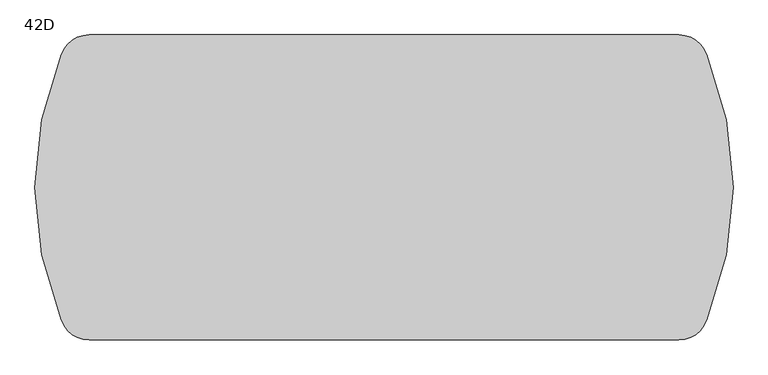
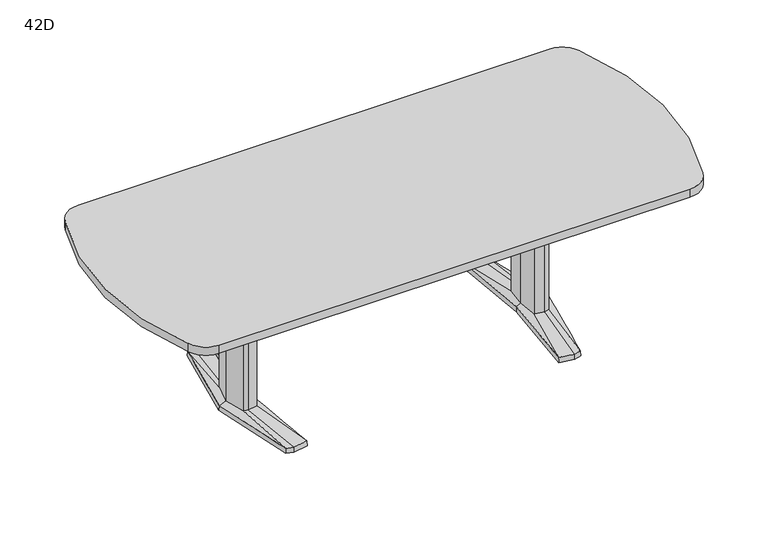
"""IFC4 building model written with IfcOpenShell, lengths in millimetres: furniture geometry, Coalesse_AM_Table_Conference_ETable2_SoftRadiused_96in_AluminiumBase : 42D."""

import ifcopenshell
import ifcopenshell.guid

model = None  # the IFC model being written
_history = None  # IfcOwnerHistory: only IFC2X3 demands one
_inside = {}  # id of a spatial element -> (the spatial element, [elements in it])
_under = {}  # id of a project, library or spatial element -> (it, [spatial elements below it])
_declared = {}  # id of a project -> (the project, [libraries it declares])
_typed = {}  # id of a type object -> (the type object, [elements of that type])
_made_of = {}  # id of a material, layer set ... -> (it, [elements and type objects made of it])


def new_model(schema):
    """Start an empty IFC model of exactly this schema.

    Asked for "IFC4X3", IfcOpenShell would pick the latest addendum, in which some entities
    have other attributes; the version numbers below select the first issue.
    IFC2X3 requires an IfcOwnerHistory on every rooted entity: one is made here for all.
    """
    global model, _history
    if schema == "IFC4X3":
        model = ifcopenshell.file(schema_version=(4, 3, 0, 0))
    else:
        model = ifcopenshell.file(schema=schema)
    _inside.clear()
    _under.clear()
    _declared.clear()
    _typed.clear()
    _made_of.clear()
    _history = None
    if model.schema == "IFC2X3":
        org = make("IfcOrganization", Name="unknown")
        user = make(
            "IfcPersonAndOrganization",
            ThePerson=make("IfcPerson", FamilyName="unknown"),
            TheOrganization=org,
        )
        app = make(
            "IfcApplication",
            ApplicationDeveloper=org,
            Version="unknown",
            ApplicationFullName="unknown",
            ApplicationIdentifier="unknown",
        )
        _history = make(
            "IfcOwnerHistory",
            OwningUser=user,
            OwningApplication=app,
            ChangeAction="ADDED",
            CreationDate=0,
        )
    return model


def make(cls, **values):
    """One entity of the class cls with the attributes given. An attribute that is None is left unset."""
    return model.create_entity(
        cls, **{name: value for name, value in values.items() if value is not None}
    )


def rooted(cls, **values):
    """An entity with a GlobalId (a new one), such as an element, a storey or a relation."""
    return make(cls, GlobalId=ifcopenshell.guid.new(), OwnerHistory=_history, **values)


def si_unit(unit_type, name, prefix=None):
    """IfcSIUnit, for example si_unit("LENGTHUNIT", "METRE", prefix="MILLI")."""
    return make("IfcSIUnit", UnitType=unit_type, Prefix=prefix, Name=name)


def assignment(units):
    """IfcUnitAssignment: the units of a project."""
    return None if units is None else make("IfcUnitAssignment", Units=units)


def point(xyz):
    """IfcCartesianPoint."""
    return None if xyz is None else make("IfcCartesianPoint", Coordinates=xyz)


def direction(xyz):
    """IfcDirection."""
    return None if xyz is None else make("IfcDirection", DirectionRatios=xyz)


def frame(location, z_axis=None, x_axis=None):
    """IfcAxis2Placement3D, a coordinate frame: its origin and axes. An axis left out is left unset."""
    return make(
        "IfcAxis2Placement3D",
        Location=point(location),
        Axis=direction(z_axis),
        RefDirection=direction(x_axis),
    )


def frame_2d(location, x_axis=None):
    """IfcAxis2Placement2D, a coordinate frame in the plane: its origin and x axis."""
    return make(
        "IfcAxis2Placement2D", Location=point(location), RefDirection=direction(x_axis)
    )


def origin():
    """The frame at (0, 0, 0) with its axes left unset."""
    return frame((0.0, 0.0, 0.0))


def place(relative_to, where):
    """IfcLocalPlacement: puts the frame where relative to a parent placement (None: the world)."""
    return make(
        "IfcLocalPlacement", PlacementRelTo=relative_to, RelativePlacement=where
    )


def context(
    kind, dimensions, precision=None, world=None, true_north=None, identifier=None
):
    """IfcGeometricRepresentationContext, for example the 3D "Model" context."""
    return make(
        "IfcGeometricRepresentationContext",
        ContextIdentifier=identifier,
        ContextType=kind,
        CoordinateSpaceDimension=dimensions,
        Precision=precision,
        WorldCoordinateSystem=world,
        TrueNorth=true_north,
    )


def project(units=None, contexts=None):
    """IfcProject with its units and contexts."""
    return rooted(
        "IfcProject",
        Name="project",
        RepresentationContexts=contexts,
        UnitsInContext=assignment(units),
    )


def spatial(cls, under=None, at=None, **own):
    """A site, building, storey or space (cls), placed at a placement, below another one or the project."""
    s = rooted(cls, ObjectPlacement=at, **own)
    if under is not None:
        _under.setdefault(under.id(), (under, []))[1].append(s)
    return s


def polyline(points):
    """IfcPolyline through the points."""
    return make("IfcPolyline", Points=[point(p) for p in points])


def circle_curve(where, radius):
    """IfcCircle in the frame where."""
    return make("IfcCircle", Position=where, Radius=radius)


def trimmed(basis, trim1, trim2, sense, master):
    """IfcTrimmedCurve: the piece of a basis curve between two trims."""
    return make(
        "IfcTrimmedCurve",
        BasisCurve=basis,
        Trim1=trim1,
        Trim2=trim2,
        SenseAgreement=sense,
        MasterRepresentation=master,
    )


def segment(curve, same_sense, transition):
    """IfcCompositeCurveSegment."""
    return make(
        "IfcCompositeCurveSegment",
        Transition=transition,
        SameSense=same_sense,
        ParentCurve=curve,
    )


def composite_curve(segments, self_intersect=None):
    """IfcCompositeCurve: segments joined end to end."""
    return make("IfcCompositeCurve", Segments=segments, SelfIntersect=self_intersect)


def outline(outer, holes=None, kind="AREA"):
    """IfcArbitraryClosedProfileDef: a profile drawn as a closed curve; with holes, ...WithVoids."""
    if holes is None:
        return make("IfcArbitraryClosedProfileDef", ProfileType=kind, OuterCurve=outer)
    return make(
        "IfcArbitraryProfileDefWithVoids",
        ProfileType=kind,
        OuterCurve=outer,
        InnerCurves=holes,
    )


def extrude(swept, where, along, depth):
    """IfcExtrudedAreaSolid: the profile swept, set in the frame where, extruded along a direction by depth."""
    return make(
        "IfcExtrudedAreaSolid",
        SweptArea=swept,
        Position=where,
        ExtrudedDirection=direction(along),
        Depth=depth,
    )


def shape(context_of_items, identifier, shape_type, items):
    """IfcShapeRepresentation: the items that make up one representation, for example the "Body"."""
    return make(
        "IfcShapeRepresentation",
        ContextOfItems=context_of_items,
        RepresentationIdentifier=identifier,
        RepresentationType=shape_type,
        Items=items,
    )


def source(mapping_origin, context_of_items, identifier, shape_type, items):
    """IfcRepresentationMap: a shape defined once, which mapped items show again and again."""
    return make(
        "IfcRepresentationMap",
        MappingOrigin=mapping_origin,
        MappedRepresentation=shape(context_of_items, identifier, shape_type, items),
    )


def transform(
    local_origin,
    x_axis=None,
    y_axis=None,
    z_axis=None,
    scale=None,
    scale2=None,
    scale3=None,
    uniform=True,
):
    """IfcCartesianTransformationOperator3D, or its non-uniform kind. x_axis, y_axis, z_axis: its Axis1, 2, 3."""
    if uniform:
        return make(
            "IfcCartesianTransformationOperator3D",
            Axis1=direction(x_axis),
            Axis2=direction(y_axis),
            LocalOrigin=point(local_origin),
            Scale=scale,
            Axis3=direction(z_axis),
        )
    return make(
        "IfcCartesianTransformationOperator3DnonUniform",
        Axis1=direction(x_axis),
        Axis2=direction(y_axis),
        LocalOrigin=point(local_origin),
        Scale=scale,
        Axis3=direction(z_axis),
        Scale2=scale2,
        Scale3=scale3,
    )


def mapped(mapping_source, mapping_target):
    """IfcMappedItem: shows the shape of a source again, moved by a transform."""
    return make(
        "IfcMappedItem", MappingSource=mapping_source, MappingTarget=mapping_target
    )


def made_of(thing, what):
    """Note that an element or type object is made of a material, layer set ...; save() writes the relation."""
    if what is not None:
        _made_of.setdefault(what.id(), (what, []))[1].append(thing)
    return thing


def element(
    cls,
    number,
    at=None,
    inside=None,
    cuts=None,
    type_object=None,
    material=None,
    context=None,
    identifier="Body",
    shape_type=None,
    held_by="IfcProductDefinitionShape",
    body=None,
    shapes=None,
    **own,
):
    """One element of the class cls, such as IfcWall. Its Tag is "e" and its number.

    at: its placement. inside: the storey or other place that contains it. cuts: it is an
    opening in that element (IfcRelVoidsElement). A single representation is given by context,
    identifier, shape_type and body (its items); several are given by shapes. held_by: the class
    of the entity that holds the representations. save() writes the other relations.
    """
    e = rooted(cls, Tag="e%d" % number, ObjectPlacement=at, **own)
    if body is not None:
        shapes = [shape(context, identifier, shape_type, body)]
    if shapes is not None:
        e.Representation = make(held_by, Representations=shapes)
    if inside is not None:
        _inside.setdefault(inside.id(), (inside, []))[1].append(e)
    if cuts is not None:
        rooted(
            "IfcRelVoidsElement", RelatingBuildingElement=cuts, RelatedOpeningElement=e
        )
    if type_object is not None:
        _typed.setdefault(type_object.id(), (type_object, []))[1].append(e)
    return made_of(e, material)


def aggregate(whole, parts):
    """IfcRelAggregates: a whole, such as a stair, and the parts it consists of."""
    return rooted("IfcRelAggregates", RelatingObject=whole, RelatedObjects=parts)


def save(model, path):
    """Write the relations noted so far, then the file.

    IfcRelAggregates (storeys below a building ...), IfcRelContainedInSpatialStructure (elements
    in a storey), IfcRelDefinesByType, IfcRelAssociatesMaterial and IfcRelDeclares: one each for
    every whole, place, type object, material and project.
    """
    for whole, parts in _under.values():
        aggregate(whole, parts)
    for where, things in _inside.values():
        rooted(
            "IfcRelContainedInSpatialStructure",
            RelatedElements=things,
            RelatingStructure=where,
        )
    for kind, things in _typed.values():
        rooted("IfcRelDefinesByType", RelatedObjects=things, RelatingType=kind)
    for what, things in _made_of.values():
        rooted("IfcRelAssociatesMaterial", RelatedObjects=things, RelatingMaterial=what)
    for by, libraries in _declared.values():
        rooted("IfcRelDeclares", RelatingContext=by, RelatedDefinitions=libraries)
    model.write(path)


def plane_surface(at):
    """IfcPlane: the flat surface through the origin of the frame at, square to its z axis."""
    return make("IfcPlane", Position=at)


def spline_surface(u_degree, v_degree, points, u_multiplicities, v_multiplicities, u_knots, v_knots, weights=None):
    """IfcBSplineSurfaceWithKnots; with weights, IfcRationalBSplineSurfaceWithKnots. points: one row for each step in u."""
    own = dict(
        UDegree=u_degree,
        VDegree=v_degree,
        ControlPointsList=[[point(p) for p in row] for row in points],
        SurfaceForm="UNSPECIFIED",
        UClosed=False,
        VClosed=False,
        SelfIntersect=False,
        UMultiplicities=u_multiplicities,
        VMultiplicities=v_multiplicities,
        UKnots=u_knots,
        VKnots=v_knots,
        KnotSpec="UNSPECIFIED",
    )
    if weights is None:
        return make("IfcBSplineSurfaceWithKnots", **own)
    return make("IfcRationalBSplineSurfaceWithKnots", WeightsData=weights, **own)


def advanced_brep(points, edges, surfaces, faces):
    """IfcAdvancedBrep: a solid bounded by faces that lie on surfaces and meet in shared edges.

    An edge is (start, end): straight between two places in points (the first is 0);
    or (start, end, curve); or (start, end, curve, False) where it runs against its curve.
    A face is (place in surfaces, loops), or (place, loops, False) where it looks against
    its surface's normal. A loop lists edges by number (the first is 1), with a minus sign
    where the edge is run from its end to its start. The first loop is the outer one.
    """
    corners = [point(p) for p in points]
    vertices = [make("IfcVertexPoint", VertexGeometry=c) for c in corners]
    made = []
    for start, end, *more in edges:
        made.append(
            make(
                "IfcEdgeCurve",
                EdgeStart=vertices[start],
                EdgeEnd=vertices[end],
                EdgeGeometry=more[0] if more else make("IfcPolyline", Points=[corners[start], corners[end]]),
                SameSense=more[1] if len(more) > 1 else True,
            )
        )
    hull = []
    for where, loops, *sense in faces:
        bounds = []
        for j, loop in enumerate(loops):
            ring = [make("IfcOrientedEdge", EdgeElement=made[abs(k) - 1], Orientation=k > 0) for k in loop]
            bounds.append(
                make(
                    "IfcFaceOuterBound" if j == 0 else "IfcFaceBound",
                    Bound=make("IfcEdgeLoop", EdgeList=ring),
                    Orientation=True,
                )
            )
        hull.append(make("IfcAdvancedFace", Bounds=bounds, FaceSurface=surfaces[where], SameSense=sense[0] if sense else True))
    return make("IfcAdvancedBrep", Outer=make("IfcClosedShell", CfsFaces=hull))


def furniture_42d_a634458f(model_context):
    return source(origin(), model_context, "Body", "SolidModel", [
        advanced_brep(
        [(614.8503471, -379.3768856, 25.4), (644.5756636, -371.5332654, 25.4), (668.2327243, -89.293702, 36.5125), (648.9795254, -94.605478, 36.5125), (606.0521001, -87.0529327, 36.5125), (551.7612538, -368.5071562, 25.4), (597.9364207, 0.0, 36.5125), (579.8389754, 0.3970149, 25.4), (606.0521001, 87.0529327, 36.5125), (551.7615002, 368.5172593, 25.4), (648.9795254, 94.605478, 36.5125), (614.8502233, 379.3769183, 25.4), (668.2327243, 89.293702, 36.5125), (644.7535458, 371.4863276, 25.4), (692.1595251, 0.0, 36.5125), (721.4851663, 0.0003516, 25.4), (578.2468742, 0.3968871, 3.175), (550.06875, 369.8367279, 3.175), (614.9213004, 381.0, 3.175), (646.1093245, 372.7704151, 3.175), (723.10625, 0.0, 3.175), (645.9309817, -372.8174744, 3.175), (614.9213004, -381.0, 3.175), (550.06875, -369.8264415, 3.175), (649.5979264, 107.6121478, 3.175), (594.3065451, 97.8843184, 3.175), (585.1810887, 0.0, 3.175), (594.3065451, -97.8843184, 3.175), (649.5979264, -107.6121478, 3.175), (678.6183473, -99.6056872, 3.175), (705.3083085, 0.0, 3.175), (678.6183473, 99.6056872, 3.175), (613.4286812, 346.9152841, 3.175), (557.7811371, 337.3364985, 3.175), (560.1889918, 324.8641942, 3.175), (612.8600644, 333.9306305, 3.175), (648.6725609, 324.4807859, 3.175), (647.5544526, 337.9105158, 3.175), (613.4286812, -346.9152841, 3.175), (647.5544526, -337.9105158, 3.175), (648.6725609, -324.4807859, 3.175), (612.8600644, -333.9306305, 3.175), (560.1889918, -324.8641942, 3.175), (557.7811371, -337.3364985, 3.175), (649.5979264, 107.6121478, 0.0), (678.6183473, 99.6056872, 0.0), (705.3083085, 0.0, 0.0), (678.6183473, -99.6056872, 0.0), (649.5979264, -107.6121478, 0.0), (594.3065451, -97.8843184, 0.0), (585.1810887, 0.0, 0.0), (594.3065451, 97.8843184, 0.0), (613.4286812, 346.9152841, 0.0), (647.5544526, 337.9105158, 0.0), (648.6725609, 324.4807859, 0.0), (612.8600644, 333.9306305, 0.0), (560.1889918, 324.8641942, 0.0), (557.7811371, 337.3364985, 0.0), (613.4286812, -346.9152841, 0.0), (557.7811371, -337.3364985, 0.0), (560.1889918, -324.8641942, 0.0), (612.8600644, -333.9306305, 0.0), (648.6725609, -324.4807859, 0.0), (647.5544526, -337.9105158, 0.0), (668.2327243, 89.293702, 698.5), (648.9795254, 94.605478, 698.5), (606.0521001, 87.0529327, 698.5), (597.9364207, 0.0, 698.5), (606.0521001, -87.0529327, 698.5), (648.9795254, -94.605478, 698.5), (668.2327243, -89.293702, 698.5), (692.1595251, 0.0, 698.5)],
        [
            (0, 1),
            (1, 2),
            (2, 3),
            (3, 0),
            (3, 4),
            (4, 5),
            (5, 0),
            (4, 6),
            (6, 7),
            (7, 5),
            (6, 8),
            (8, 9),
            (9, 7),
            (8, 10),
            (10, 11),
            (11, 9),
            (10, 12),
            (12, 13),
            (13, 11),
            (12, 14),
            (14, 15),
            (15, 13),
            (1, 15),
            (14, 2),
            (16, 17),
            (17, 18),
            (18, 19),
            (19, 20),
            (20, 21),
            (21, 22),
            (22, 23),
            (23, 16),
            (24, 25),
            (25, 26),
            (26, 27),
            (27, 28),
            (28, 29),
            (29, 30),
            (30, 31),
            (31, 24),
            (32, 33),
            (33, 34),
            (34, 35),
            (35, 36),
            (36, 37),
            (37, 32),
            (38, 39),
            (39, 40),
            (40, 41),
            (41, 42),
            (42, 43),
            (43, 38),
            (16, 7),
            (9, 17),
            (11, 18),
            (13, 19),
            (15, 20),
            (1, 21),
            (0, 22),
            (5, 23),
            (44, 45),
            (45, 46),
            (46, 47),
            (47, 48),
            (48, 49),
            (49, 50),
            (50, 51),
            (51, 44),
            (52, 53),
            (53, 54),
            (54, 55),
            (55, 56),
            (56, 57),
            (57, 52),
            (58, 59),
            (59, 60),
            (60, 61),
            (61, 62),
            (62, 63),
            (63, 58),
            (44, 24),
            (31, 45),
            (30, 46),
            (29, 47),
            (28, 48),
            (27, 49),
            (26, 50),
            (25, 51),
            (52, 32),
            (37, 53),
            (36, 54),
            (35, 55),
            (34, 56),
            (33, 57),
            (58, 38),
            (43, 59),
            (42, 60),
            (41, 61),
            (40, 62),
            (39, 63),
            (64, 65),
            (65, 66),
            (66, 67),
            (67, 68),
            (68, 69),
            (69, 70),
            (70, 71),
            (71, 64),
            (71, 14),
            (12, 64),
            (70, 2),
            (69, 3),
            (68, 4),
            (67, 6),
            (66, 8),
            (65, 10),
        ],
        [
            spline_surface(1, 1, [[(644.5756636, -371.5332654, 25.4), (614.8503471, -379.3768856, 25.4)], [(668.2327243, -89.293702, 36.5125), (648.9795254, -94.605478, 36.5125)]], [2, 2], [2, 2], [0.0, 1.0], [0.0, 1.0]),
            spline_surface(1, 1, [[(614.8503471, -379.3768856, 25.4), (551.7612538, -368.5071562, 25.4)], [(648.9795254, -94.605478, 36.5125), (606.0521001, -87.0529327, 36.5125)]], [2, 2], [2, 2], [0.0, 1.0], [0.0, 1.0]),
            spline_surface(1, 1, [[(551.7612538, -368.5071562, 25.4), (579.8389754, 0.3970149, 25.4)], [(606.0521001, -87.0529327, 36.5125), (597.9364207, 0.0, 36.5125)]], [2, 2], [2, 2], [0.0, 1.0], [0.0, 1.0]),
            spline_surface(1, 1, [[(579.8389754, 0.3970149, 25.4), (551.7615002, 368.5172593, 25.4)], [(597.9364207, 0.0, 36.5125), (606.0521001, 87.0529327, 36.5125)]], [2, 2], [2, 2], [0.0, 1.0], [0.0, 1.0]),
            spline_surface(1, 1, [[(551.7615002, 368.5172593, 25.4), (614.8502233, 379.3769183, 25.4)], [(606.0521001, 87.0529327, 36.5125), (648.9795254, 94.605478, 36.5125)]], [2, 2], [2, 2], [0.0, 1.0], [0.0, 1.0]),
            spline_surface(1, 1, [[(614.8502233, 379.3769183, 25.4), (644.7535458, 371.4863276, 25.4)], [(648.9795254, 94.605478, 36.5125), (668.2327243, 89.293702, 36.5125)]], [2, 2], [2, 2], [0.0, 1.0], [0.0, 1.0]),
            spline_surface(1, 1, [[(644.7535458, 371.4863276, 25.4), (721.4851663, 0.0003516, 25.4)], [(668.2327243, 89.293702, 36.5125), (692.1595251, 0.0, 36.5125)]], [2, 2], [2, 2], [0.0, 1.0], [0.0, 1.0]),
            spline_surface(1, 1, [[(721.4851663, 0.0003516, 25.4), (644.5756636, -371.5332654, 25.4)], [(692.1595251, 0.0, 36.5125), (668.2327243, -89.293702, 36.5125)]], [2, 2], [2, 2], [0.0, 1.0], [0.0, 1.0]),
            plane_surface(frame((615.4216914, 0.0450143, 3.175), z_axis=(0.0, 0.0, -1.0), x_axis=(-0.9669048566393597, -0.2551372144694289, 0.0))),
            plane_surface(frame((564.1578121, 185.1168075, 3.175), z_axis=(-0.9945699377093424, -0.07585840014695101, 0.0712470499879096), x_axis=(-0.07605167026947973, 0.9971038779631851, 0.0))),
            plane_surface(frame((582.4950252, 375.418364, 3.175), z_axis=(-0.1692071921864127, 0.9830019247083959, 0.07124704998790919), x_axis=(0.985506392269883, 0.16963829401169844, 0.0))),
            plane_surface(frame((630.5153124, 376.8852076, 3.175), z_axis=(0.2544888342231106, 0.9644476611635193, 0.07124704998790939), x_axis=(0.9669048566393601, -0.25513721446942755, 0.0))),
            plane_surface(frame((684.6077872, 186.3852076, 3.175), z_axis=(0.9768383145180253, 0.2017690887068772, 0.07124704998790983), x_axis=(0.20228315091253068, -0.9793270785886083, 0.0))),
            plane_surface(frame((684.5186158, -186.4087372, 3.175), z_axis=(0.9767507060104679, -0.20219276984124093, 0.07124704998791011), x_axis=(-0.2027079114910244, -0.9792392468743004, 0.0))),
            plane_surface(frame((630.426141, -376.9087372, 3.175), z_axis=(0.2544888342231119, -0.9644476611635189, 0.0712470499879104), x_axis=(-0.9669048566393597, -0.2551372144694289, 0.0))),
            plane_surface(frame((582.4950252, -375.4132207, 3.175), z_axis=(-0.16935861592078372, -0.982975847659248, 0.07124704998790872), x_axis=(-0.9854802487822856, 0.16979010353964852, 0.0))),
            plane_surface(frame((564.1578121, -184.7147772, 3.175), z_axis=(-0.9945820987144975, 0.07569878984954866, 0.07124704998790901), x_axis=(0.07589165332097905, 0.9971160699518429, 0.0))),
            plane_surface(frame((652.3571479, 106.8509046, 0.0), z_axis=(0.0, 0.0, -1.0000000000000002), x_axis=(-0.9639855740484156, 0.26595453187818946, 0.0))),
            plane_surface(frame((649.5979264, 107.6121478, 3.175), z_axis=(0.26595453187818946, 0.9639855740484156, 0.0), x_axis=(0.0, 0.0, -1.0))),
            plane_surface(frame((678.6183473, 99.6056872, 3.175), z_axis=(0.9659241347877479, 0.2588253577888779, 0.0), x_axis=(0.0, 0.0, -1.0))),
            plane_surface(frame((705.3083085, 0.0, 3.175), z_axis=(0.9659241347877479, -0.2588253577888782, 0.0), x_axis=(0.0, 0.0, -1.0))),
            plane_surface(frame((678.6183473, -99.6056872, 3.175), z_axis=(0.26595453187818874, -0.9639855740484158, 0.0), x_axis=(0.0, 0.0, -1.0))),
            plane_surface(frame((649.5979264, -107.6121478, 3.175), z_axis=(-0.17327617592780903, -0.9848732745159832, 0.0), x_axis=(0.0, 0.0, -1.0))),
            plane_surface(frame((594.3065451, -97.8843184, 3.175), z_axis=(-0.9956824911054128, -0.0928244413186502, 0.0), x_axis=(0.0, 0.0, -1.0))),
            plane_surface(frame((585.1810887, 0.0, 3.175), z_axis=(-0.9956824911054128, 0.09282444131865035, 0.0), x_axis=(0.0, 0.0, -1.0))),
            plane_surface(frame((594.3065451, 97.8843184, 3.175), z_axis=(-0.17327617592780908, 0.984873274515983, 0.0), x_axis=(0.0, 0.0, -1.0))),
            plane_surface(frame((613.4286812, 346.9152841, 3.175), z_axis=(0.25513721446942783, 0.9669048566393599, 0.0), x_axis=(0.0, 0.0, -1.0))),
            plane_surface(frame((647.5544526, 337.9105158, 3.175), z_axis=(0.9965521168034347, 0.0829691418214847, 0.0), x_axis=(0.0, 0.0, -1.0))),
            plane_surface(frame((648.6725609, 324.4807859, 3.175), z_axis=(-0.25513721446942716, -0.9669048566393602, 0.0), x_axis=(0.0, 0.0, -1.0))),
            plane_surface(frame((612.8600644, 333.9306305, 3.175), z_axis=(0.16963829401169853, -0.985506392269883, 0.0), x_axis=(0.0, 0.0, -1.0))),
            plane_surface(frame((560.1889918, 324.8641942, 3.175), z_axis=(-0.9818699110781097, -0.18955600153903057, 0.0), x_axis=(0.0, 0.0, -1.0))),
            plane_surface(frame((557.7811371, 337.3364985, 3.175), z_axis=(-0.16963829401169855, 0.9855063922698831, 0.0), x_axis=(0.0, 0.0, -1.0))),
            plane_surface(frame((613.4286812, -346.9152841, 3.175), z_axis=(-0.1696382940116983, -0.9855063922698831, 0.0), x_axis=(0.0, 0.0, -1.0))),
            plane_surface(frame((557.7811371, -337.3364985, 3.175), z_axis=(-0.9818699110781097, 0.18955600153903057, 0.0), x_axis=(0.0, 0.0, -1.0))),
            plane_surface(frame((560.1889918, -324.8641942, 3.175), z_axis=(0.16963829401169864, 0.985506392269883, 0.0), x_axis=(0.0, 0.0, -1.0))),
            plane_surface(frame((612.8600644, -333.9306305, 3.175), z_axis=(-0.2551372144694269, 0.9669048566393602, 0.0), x_axis=(0.0, 0.0, -1.0))),
            plane_surface(frame((648.6725609, -324.4807859, 3.175), z_axis=(0.9965521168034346, -0.0829691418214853, 0.0), x_axis=(0.0, 0.0, -1.0))),
            plane_surface(frame((647.5544526, -337.9105158, 3.175), z_axis=(0.2551372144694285, -0.9669048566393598, 0.0), x_axis=(0.0, 0.0, -1.0))),
            plane_surface(frame((692.1595251, 0.0, 698.5), z_axis=(0.0, 0.0, 1.0), x_axis=(0.25882535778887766, -0.965924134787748, 0.0))),
            plane_surface(frame((668.2327243, 89.293702, 698.5), z_axis=(0.965924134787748, 0.25882535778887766, 0.0), x_axis=(0.0, 0.0, -1.0))),
            plane_surface(frame((692.1595251, 0.0, 698.5), z_axis=(0.965924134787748, -0.2588253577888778, 0.0), x_axis=(0.0, 0.0, -1.0))),
            plane_surface(frame((668.2327243, -89.293702, 698.5), z_axis=(0.2659545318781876, -0.963985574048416, 0.0), x_axis=(0.0, 0.0, -1.0))),
            plane_surface(frame((648.9795254, -94.605478, 698.5), z_axis=(-0.1732761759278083, -0.9848732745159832, 0.0), x_axis=(0.0, 0.0, -1.0))),
            plane_surface(frame((606.0521001, -87.0529327, 698.5), z_axis=(-0.9956824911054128, -0.0928244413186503, 0.0), x_axis=(0.0, 0.0, -1.0))),
            plane_surface(frame((597.9364207, 0.0, 698.5), z_axis=(-0.9956824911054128, 0.09282444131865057, 0.0), x_axis=(0.0, 0.0, -1.0))),
            plane_surface(frame((606.0521001, 87.0529327, 698.5), z_axis=(-0.17327617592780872, 0.9848732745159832, 0.0), x_axis=(0.0, 0.0, -1.0))),
            plane_surface(frame((648.9795254, 94.605478, 698.5), z_axis=(0.26595453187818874, 0.9639855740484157, 0.0), x_axis=(0.0, 0.0, -1.0))),
        ],
        [
            (0, [[1, 2, 3, 4]]),
            (1, [[5, 6, 7, -4]]),
            (2, [[8, 9, 10, -6]]),
            (3, [[11, 12, 13, -9]]),
            (4, [[14, 15, 16, -12]]),
            (5, [[17, 18, 19, -15]]),
            (6, [[20, 21, 22, -18]]),
            (7, [[23, -21, 24, -2]]),
            (8, [[25, 26, 27, 28, 29, 30, 31, 32], [33, 34, 35, 36, 37, 38, 39, 40], [41, 42, 43, 44, 45, 46], [47, 48, 49, 50, 51, 52]]),
            (9, [[53, -13, 54, -25]]),
            (10, [[-54, -16, 55, -26]]),
            (11, [[-55, -19, 56, -27]]),
            (12, [[-56, -22, 57, -28]]),
            (13, [[-57, -23, 58, -29]]),
            (14, [[-58, -1, 59, -30]]),
            (15, [[-59, -7, 60, -31]]),
            (16, [[-60, -10, -53, -32]]),
            (17, [[61, 62, 63, 64, 65, 66, 67, 68]]),
            (17, [[69, 70, 71, 72, 73, 74]]),
            (17, [[75, 76, 77, 78, 79, 80]]),
            (18, [[81, -40, 82, -61]]),
            (19, [[-82, -39, 83, -62]]),
            (20, [[-83, -38, 84, -63]]),
            (21, [[-84, -37, 85, -64]]),
            (22, [[-85, -36, 86, -65]]),
            (23, [[-86, -35, 87, -66]]),
            (24, [[-87, -34, 88, -67]]),
            (25, [[-88, -33, -81, -68]]),
            (26, [[89, -46, 90, -69]]),
            (27, [[-90, -45, 91, -70]]),
            (28, [[-91, -44, 92, -71]]),
            (29, [[-92, -43, 93, -72]]),
            (30, [[-93, -42, 94, -73]]),
            (31, [[-94, -41, -89, -74]]),
            (32, [[95, -52, 96, -75]]),
            (33, [[-96, -51, 97, -76]]),
            (34, [[-97, -50, 98, -77]]),
            (35, [[-98, -49, 99, -78]]),
            (36, [[-99, -48, 100, -79]]),
            (37, [[-100, -47, -95, -80]]),
            (38, [[101, 102, 103, 104, 105, 106, 107, 108]]),
            (39, [[109, -20, 110, -108]]),
            (40, [[111, -24, -109, -107]]),
            (41, [[112, -3, -111, -106]]),
            (42, [[113, -5, -112, -105]]),
            (43, [[114, -8, -113, -104]]),
            (44, [[115, -11, -114, -103]]),
            (45, [[116, -14, -115, -102]]),
            (46, [[-110, -17, -116, -101]]),
        ],
    ),
        advanced_brep(
        [(-614.8503471, -379.3768856, 25.4), (-648.9795254, -94.605478, 36.5125), (-668.2327243, -89.293702, 36.5125), (-644.5756636, -371.5332654, 25.4), (-551.7612538, -368.5071562, 25.4), (-606.0521001, -87.0529327, 36.5125), (-579.8389754, 0.3970149, 25.4), (-597.9364207, 0.0, 36.5125), (-551.7615002, 368.5172593, 25.4), (-606.0521001, 87.0529327, 36.5125), (-614.8502233, 379.3769183, 25.4), (-648.9795254, 94.605478, 36.5125), (-644.7535458, 371.4863276, 25.4), (-668.2327243, 89.293702, 36.5125), (-721.4851663, 0.0003516, 25.4), (-692.1595251, 0.0, 36.5125), (-578.2468742, 0.3968871, 3.175), (-550.06875, -369.8264415, 3.175), (-614.9213004, -381.0, 3.175), (-645.9309817, -372.8174744, 3.175), (-723.10625, 0.0, 3.175), (-646.1093245, 372.7704151, 3.175), (-614.9213004, 381.0, 3.175), (-550.06875, 369.8367279, 3.175), (-649.5979264, 107.6121478, 3.175), (-678.6183473, 99.6056872, 3.175), (-705.3083085, 0.0, 3.175), (-678.6183473, -99.6056872, 3.175), (-649.5979264, -107.6121478, 3.175), (-594.3065451, -97.8843184, 3.175), (-585.1810887, 0.0, 3.175), (-594.3065451, 97.8843184, 3.175), (-613.4286812, 346.9152841, 3.175), (-647.5544526, 337.9105158, 3.175), (-648.6725609, 324.4807859, 3.175), (-612.8600644, 333.9306305, 3.175), (-560.1889918, 324.8641942, 3.175), (-557.7811371, 337.3364985, 3.175), (-613.4286812, -346.9152841, 3.175), (-557.7811371, -337.3364985, 3.175), (-560.1889918, -324.8641942, 3.175), (-612.8600644, -333.9306305, 3.175), (-648.6725609, -324.4807859, 3.175), (-647.5544526, -337.9105158, 3.175), (-649.5979264, 107.6121478, 0.0), (-594.3065451, 97.8843184, 0.0), (-585.1810887, 0.0, 0.0), (-594.3065451, -97.8843184, 0.0), (-649.5979264, -107.6121478, 0.0), (-678.6183473, -99.6056872, 0.0), (-705.3083085, 0.0, 0.0), (-678.6183473, 99.6056872, 0.0), (-613.4286812, 346.9152841, 0.0), (-557.7811371, 337.3364985, 0.0), (-560.1889918, 324.8641942, 0.0), (-612.8600644, 333.9306305, 0.0), (-648.6725609, 324.4807859, 0.0), (-647.5544526, 337.9105158, 0.0), (-613.4286812, -346.9152841, 0.0), (-647.5544526, -337.9105158, 0.0), (-648.6725609, -324.4807859, 0.0), (-612.8600644, -333.9306305, 0.0), (-560.1889918, -324.8641942, 0.0), (-557.7811371, -337.3364985, 0.0), (-668.2327243, 89.293702, 698.5), (-692.1595251, 0.0, 698.5), (-668.2327243, -89.293702, 698.5), (-648.9795254, -94.605478, 698.5), (-606.0521001, -87.0529327, 698.5), (-597.9364207, 0.0, 698.5), (-606.0521001, 87.0529327, 698.5), (-648.9795254, 94.605478, 698.5)],
        [
            (0, 1),
            (1, 2),
            (2, 3),
            (3, 0),
            (0, 4),
            (4, 5),
            (5, 1),
            (4, 6),
            (6, 7),
            (7, 5),
            (6, 8),
            (8, 9),
            (9, 7),
            (8, 10),
            (10, 11),
            (11, 9),
            (10, 12),
            (12, 13),
            (13, 11),
            (12, 14),
            (14, 15),
            (15, 13),
            (2, 15),
            (14, 3),
            (16, 17),
            (17, 18),
            (18, 19),
            (19, 20),
            (20, 21),
            (21, 22),
            (22, 23),
            (23, 16),
            (24, 25),
            (25, 26),
            (26, 27),
            (27, 28),
            (28, 29),
            (29, 30),
            (30, 31),
            (31, 24),
            (32, 33),
            (33, 34),
            (34, 35),
            (35, 36),
            (36, 37),
            (37, 32),
            (38, 39),
            (39, 40),
            (40, 41),
            (41, 42),
            (42, 43),
            (43, 38),
            (23, 8),
            (6, 16),
            (22, 10),
            (21, 12),
            (20, 14),
            (19, 3),
            (18, 0),
            (17, 4),
            (44, 45),
            (45, 46),
            (46, 47),
            (47, 48),
            (48, 49),
            (49, 50),
            (50, 51),
            (51, 44),
            (52, 53),
            (53, 54),
            (54, 55),
            (55, 56),
            (56, 57),
            (57, 52),
            (58, 59),
            (59, 60),
            (60, 61),
            (61, 62),
            (62, 63),
            (63, 58),
            (51, 25),
            (24, 44),
            (50, 26),
            (49, 27),
            (48, 28),
            (47, 29),
            (46, 30),
            (45, 31),
            (57, 33),
            (32, 52),
            (56, 34),
            (55, 35),
            (54, 36),
            (53, 37),
            (63, 39),
            (38, 58),
            (62, 40),
            (61, 41),
            (60, 42),
            (59, 43),
            (64, 65),
            (65, 66),
            (66, 67),
            (67, 68),
            (68, 69),
            (69, 70),
            (70, 71),
            (71, 64),
            (64, 13),
            (15, 65),
            (2, 66),
            (1, 67),
            (5, 68),
            (7, 69),
            (9, 70),
            (11, 71),
        ],
        [
            spline_surface(1, 1, [[(-644.5756636, -371.5332654, 25.4), (-668.2327243, -89.293702, 36.5125)], [(-614.8503471, -379.3768856, 25.4), (-648.9795254, -94.605478, 36.5125)]], [2, 2], [2, 2], [0.0, 1.0], [0.0, 1.0]),
            spline_surface(1, 1, [[(-614.8503471, -379.3768856, 25.4), (-648.9795254, -94.605478, 36.5125)], [(-551.7612538, -368.5071562, 25.4), (-606.0521001, -87.0529327, 36.5125)]], [2, 2], [2, 2], [0.0, 1.0], [0.0, 1.0]),
            spline_surface(1, 1, [[(-551.7612538, -368.5071562, 25.4), (-606.0521001, -87.0529327, 36.5125)], [(-579.8389754, 0.3970149, 25.4), (-597.9364207, 0.0, 36.5125)]], [2, 2], [2, 2], [0.0, 1.0], [0.0, 1.0]),
            spline_surface(1, 1, [[(-579.8389754, 0.3970149, 25.4), (-597.9364207, 0.0, 36.5125)], [(-551.7615002, 368.5172593, 25.4), (-606.0521001, 87.0529327, 36.5125)]], [2, 2], [2, 2], [0.0, 1.0], [0.0, 1.0]),
            spline_surface(1, 1, [[(-551.7615002, 368.5172593, 25.4), (-606.0521001, 87.0529327, 36.5125)], [(-614.8502233, 379.3769183, 25.4), (-648.9795254, 94.605478, 36.5125)]], [2, 2], [2, 2], [0.0, 1.0], [0.0, 1.0]),
            spline_surface(1, 1, [[(-614.8502233, 379.3769183, 25.4), (-648.9795254, 94.605478, 36.5125)], [(-644.7535458, 371.4863276, 25.4), (-668.2327243, 89.293702, 36.5125)]], [2, 2], [2, 2], [0.0, 1.0], [0.0, 1.0]),
            spline_surface(1, 1, [[(-644.7535458, 371.4863276, 25.4), (-668.2327243, 89.293702, 36.5125)], [(-721.4851663, 0.0003516, 25.4), (-692.1595251, 0.0, 36.5125)]], [2, 2], [2, 2], [0.0, 1.0], [0.0, 1.0]),
            spline_surface(1, 1, [[(-721.4851663, 0.0003516, 25.4), (-692.1595251, 0.0, 36.5125)], [(-644.5756636, -371.5332654, 25.4), (-668.2327243, -89.293702, 36.5125)]], [2, 2], [2, 2], [0.0, 1.0], [0.0, 1.0]),
            plane_surface(frame((-615.4216914, 0.0450143, 3.175), z_axis=(0.0, 0.0, -1.0), x_axis=(0.9669048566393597, -0.2551372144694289, 0.0))),
            plane_surface(frame((-564.1578121, 185.1168075, 3.175), z_axis=(0.9945699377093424, -0.07585840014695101, 0.0712470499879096), x_axis=(0.07605167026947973, 0.9971038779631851, 0.0))),
            plane_surface(frame((-582.4950252, 375.418364, 3.175), z_axis=(0.1692071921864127, 0.9830019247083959, 0.07124704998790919), x_axis=(-0.985506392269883, 0.16963829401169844, 0.0))),
            plane_surface(frame((-630.5153124, 376.8852076, 3.175), z_axis=(-0.2544888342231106, 0.9644476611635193, 0.07124704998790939), x_axis=(-0.9669048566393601, -0.25513721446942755, 0.0))),
            plane_surface(frame((-684.6077872, 186.3852076, 3.175), z_axis=(-0.9768383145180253, 0.2017690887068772, 0.07124704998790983), x_axis=(-0.20228315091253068, -0.9793270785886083, 0.0))),
            plane_surface(frame((-684.5186158, -186.4087372, 3.175), z_axis=(-0.9767507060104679, -0.20219276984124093, 0.07124704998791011), x_axis=(0.2027079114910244, -0.9792392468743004, 0.0))),
            plane_surface(frame((-630.426141, -376.9087372, 3.175), z_axis=(-0.2544888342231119, -0.9644476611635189, 0.0712470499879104), x_axis=(0.9669048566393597, -0.2551372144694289, 0.0))),
            plane_surface(frame((-582.4950252, -375.4132207, 3.175), z_axis=(0.16935861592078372, -0.982975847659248, 0.07124704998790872), x_axis=(0.9854802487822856, 0.16979010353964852, 0.0))),
            plane_surface(frame((-564.1578121, -184.7147772, 3.175), z_axis=(0.9945820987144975, 0.07569878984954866, 0.07124704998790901), x_axis=(-0.07589165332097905, 0.9971160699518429, 0.0))),
            plane_surface(frame((-652.3571479, 106.8509046, 0.0), z_axis=(0.0, 0.0, -1.0000000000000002), x_axis=(0.9639855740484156, 0.26595453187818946, 0.0))),
            plane_surface(frame((-649.5979264, 107.6121478, 3.175), z_axis=(-0.26595453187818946, 0.9639855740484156, 0.0), x_axis=(0.0, 0.0, -1.0))),
            plane_surface(frame((-678.6183473, 99.6056872, 3.175), z_axis=(-0.9659241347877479, 0.2588253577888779, 0.0), x_axis=(0.0, 0.0, -1.0))),
            plane_surface(frame((-705.3083085, 0.0, 3.175), z_axis=(-0.9659241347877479, -0.2588253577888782, 0.0), x_axis=(0.0, 0.0, -1.0))),
            plane_surface(frame((-678.6183473, -99.6056872, 3.175), z_axis=(-0.26595453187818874, -0.9639855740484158, 0.0), x_axis=(0.0, 0.0, -1.0))),
            plane_surface(frame((-649.5979264, -107.6121478, 3.175), z_axis=(0.17327617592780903, -0.9848732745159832, 0.0), x_axis=(0.0, 0.0, -1.0))),
            plane_surface(frame((-594.3065451, -97.8843184, 3.175), z_axis=(0.9956824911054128, -0.0928244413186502, 0.0), x_axis=(0.0, 0.0, -1.0))),
            plane_surface(frame((-585.1810887, 0.0, 3.175), z_axis=(0.9956824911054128, 0.09282444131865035, 0.0), x_axis=(0.0, 0.0, -1.0))),
            plane_surface(frame((-594.3065451, 97.8843184, 3.175), z_axis=(0.17327617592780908, 0.984873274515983, 0.0), x_axis=(0.0, 0.0, -1.0))),
            plane_surface(frame((-613.4286812, 346.9152841, 3.175), z_axis=(-0.25513721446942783, 0.9669048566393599, 0.0), x_axis=(0.0, 0.0, -1.0))),
            plane_surface(frame((-647.5544526, 337.9105158, 3.175), z_axis=(-0.9965521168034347, 0.0829691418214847, 0.0), x_axis=(0.0, 0.0, -1.0))),
            plane_surface(frame((-648.6725609, 324.4807859, 3.175), z_axis=(0.25513721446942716, -0.9669048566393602, 0.0), x_axis=(0.0, 0.0, -1.0))),
            plane_surface(frame((-612.8600644, 333.9306305, 3.175), z_axis=(-0.16963829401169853, -0.985506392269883, 0.0), x_axis=(0.0, 0.0, -1.0))),
            plane_surface(frame((-560.1889918, 324.8641942, 3.175), z_axis=(0.9818699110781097, -0.18955600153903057, 0.0), x_axis=(0.0, 0.0, -1.0))),
            plane_surface(frame((-557.7811371, 337.3364985, 3.175), z_axis=(0.16963829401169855, 0.9855063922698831, 0.0), x_axis=(0.0, 0.0, -1.0))),
            plane_surface(frame((-613.4286812, -346.9152841, 3.175), z_axis=(0.1696382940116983, -0.9855063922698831, 0.0), x_axis=(0.0, 0.0, -1.0))),
            plane_surface(frame((-557.7811371, -337.3364985, 3.175), z_axis=(0.9818699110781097, 0.18955600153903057, 0.0), x_axis=(0.0, 0.0, -1.0))),
            plane_surface(frame((-560.1889918, -324.8641942, 3.175), z_axis=(-0.16963829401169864, 0.985506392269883, 0.0), x_axis=(0.0, 0.0, -1.0))),
            plane_surface(frame((-612.8600644, -333.9306305, 3.175), z_axis=(0.2551372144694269, 0.9669048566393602, 0.0), x_axis=(0.0, 0.0, -1.0))),
            plane_surface(frame((-648.6725609, -324.4807859, 3.175), z_axis=(-0.9965521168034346, -0.0829691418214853, 0.0), x_axis=(0.0, 0.0, -1.0))),
            plane_surface(frame((-647.5544526, -337.9105158, 3.175), z_axis=(-0.2551372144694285, -0.9669048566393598, 0.0), x_axis=(0.0, 0.0, -1.0))),
            plane_surface(frame((-692.1595251, 0.0, 698.5), z_axis=(0.0, 0.0, 1.0), x_axis=(-0.25882535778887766, -0.965924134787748, 0.0))),
            plane_surface(frame((-668.2327243, 89.293702, 698.5), z_axis=(-0.965924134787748, 0.25882535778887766, 0.0), x_axis=(0.0, 0.0, -1.0))),
            plane_surface(frame((-692.1595251, 0.0, 698.5), z_axis=(-0.965924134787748, -0.2588253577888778, 0.0), x_axis=(0.0, 0.0, -1.0))),
            plane_surface(frame((-668.2327243, -89.293702, 698.5), z_axis=(-0.2659545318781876, -0.963985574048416, 0.0), x_axis=(0.0, 0.0, -1.0))),
            plane_surface(frame((-648.9795254, -94.605478, 698.5), z_axis=(0.1732761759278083, -0.9848732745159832, 0.0), x_axis=(0.0, 0.0, -1.0))),
            plane_surface(frame((-606.0521001, -87.0529327, 698.5), z_axis=(0.9956824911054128, -0.0928244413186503, 0.0), x_axis=(0.0, 0.0, -1.0))),
            plane_surface(frame((-597.9364207, 0.0, 698.5), z_axis=(0.9956824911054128, 0.09282444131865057, 0.0), x_axis=(0.0, 0.0, -1.0))),
            plane_surface(frame((-606.0521001, 87.0529327, 698.5), z_axis=(0.17327617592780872, 0.9848732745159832, 0.0), x_axis=(0.0, 0.0, -1.0))),
            plane_surface(frame((-648.9795254, 94.605478, 698.5), z_axis=(-0.26595453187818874, 0.9639855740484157, 0.0), x_axis=(0.0, 0.0, -1.0))),
        ],
        [
            (0, [[1, 2, 3, 4]]),
            (1, [[-1, 5, 6, 7]]),
            (2, [[-6, 8, 9, 10]]),
            (3, [[-9, 11, 12, 13]]),
            (4, [[-12, 14, 15, 16]]),
            (5, [[-15, 17, 18, 19]]),
            (6, [[-18, 20, 21, 22]]),
            (7, [[-3, 23, -21, 24]]),
            (8, [[25, 26, 27, 28, 29, 30, 31, 32], [33, 34, 35, 36, 37, 38, 39, 40], [41, 42, 43, 44, 45, 46], [47, 48, 49, 50, 51, 52]]),
            (9, [[-32, 53, -11, 54]]),
            (10, [[-31, 55, -14, -53]]),
            (11, [[-30, 56, -17, -55]]),
            (12, [[-29, 57, -20, -56]]),
            (13, [[-28, 58, -24, -57]]),
            (14, [[-27, 59, -4, -58]]),
            (15, [[-26, 60, -5, -59]]),
            (16, [[-25, -54, -8, -60]]),
            (17, [[61, 62, 63, 64, 65, 66, 67, 68]]),
            (17, [[69, 70, 71, 72, 73, 74]]),
            (17, [[75, 76, 77, 78, 79, 80]]),
            (18, [[-68, 81, -33, 82]]),
            (19, [[-67, 83, -34, -81]]),
            (20, [[-66, 84, -35, -83]]),
            (21, [[-65, 85, -36, -84]]),
            (22, [[-64, 86, -37, -85]]),
            (23, [[-63, 87, -38, -86]]),
            (24, [[-62, 88, -39, -87]]),
            (25, [[-61, -82, -40, -88]]),
            (26, [[-74, 89, -41, 90]]),
            (27, [[-73, 91, -42, -89]]),
            (28, [[-72, 92, -43, -91]]),
            (29, [[-71, 93, -44, -92]]),
            (30, [[-70, 94, -45, -93]]),
            (31, [[-69, -90, -46, -94]]),
            (32, [[-80, 95, -47, 96]]),
            (33, [[-79, 97, -48, -95]]),
            (34, [[-78, 98, -49, -97]]),
            (35, [[-77, 99, -50, -98]]),
            (36, [[-76, 100, -51, -99]]),
            (37, [[-75, -96, -52, -100]]),
            (38, [[101, 102, 103, 104, 105, 106, 107, 108]]),
            (39, [[-101, 109, -22, 110]]),
            (40, [[-102, -110, -23, 111]]),
            (41, [[-103, -111, -2, 112]]),
            (42, [[-104, -112, -7, 113]]),
            (43, [[-105, -113, -10, 114]]),
            (44, [[-106, -114, -13, 115]]),
            (45, [[-107, -115, -16, 116]]),
            (46, [[-108, -116, -19, -109]]),
        ],
    ),
        extrude(outline(polyline([(96.8375, 698.5), (103.1875, 698.5), (103.1875, 476.25), (-103.1875, 476.25), (-103.1875, 698.5), (-96.8375, 698.5), (-96.8375, 482.6), (96.8375, 482.6), (96.8375, 698.5)])), frame((-597.9364207, 0.0, 0.0), z_axis=(1.0, 0.0, 0.0), x_axis=(0.0, 1.0, 0.0)), (0.0, 0.0, 1.0), 1195.8728415),
        extrude(outline(composite_curve([segment(polyline([(-1125.8457112, -465.6652296), (-1126.6015465, -463.5273037)]), True, "CONTINUOUS"), segment(trimmed(circle_curve(frame_2d((-12.7368131, 0.0013115)), 1206.4631869), [point((-1126.6015465, -463.5273037))], [point((-1126.5956256, 463.5441544))], False, "CARTESIAN"), True, "CONTINUOUS"), segment(polyline([(-1126.5956256, 463.5441544), (-1125.8453442, 465.6662966)]), True, "CONTINUOUS"), segment(trimmed(circle_curve(frame_2d((-1030.0558148, 431.8)), 101.6), [point((-1125.8453442, 465.6662966))], [point((-1030.0558148, 533.4))], False, "CARTESIAN"), True, "CONTINUOUS"), segment(polyline([(-1030.0558148, 533.4), (1030.0557872, 533.4)]), True, "CONTINUOUS"), segment(trimmed(circle_curve(frame_2d((1030.0557872, 431.7999756)), 101.6000244), [point((1030.0557872, 533.4))], [point((1125.8457112, 465.6652296))], False, "CARTESIAN"), True, "CONTINUOUS"), segment(polyline([(1125.8457112, 465.6652296), (1126.6015465, 463.5298232)]), True, "CONTINUOUS"), segment(trimmed(circle_curve(frame_2d((12.7305071, -5.18e-05)), 1206.4694929), [point((1126.6015465, 463.5298232))], [point((1126.5956256, -463.5441544))], False, "CARTESIAN"), True, "CONTINUOUS"), segment(polyline([(1126.5956256, -463.5441544), (1125.8453442, -465.6662966)]), True, "CONTINUOUS"), segment(trimmed(circle_curve(frame_2d((1030.0558148, -431.8)), 101.6), [point((1125.8453442, -465.6662966))], [point((1030.0558148, -533.4))], False, "CARTESIAN"), True, "CONTINUOUS"), segment(polyline([(1030.0558148, -533.4), (-1030.0557872, -533.4)]), True, "CONTINUOUS"), segment(trimmed(circle_curve(frame_2d((-1030.0557872, -431.7999756)), 101.6000244), [point((-1030.0557872, -533.4))], [point((-1125.8457112, -465.6652296))], False, "CARTESIAN"), True, "CONTINUOUS")], self_intersect=False)), frame((0.0, 0.0, 698.5), z_axis=(0.0, 0.0, 1.0), x_axis=(1.0, 0.0, 0.0)), (0.0, 0.0, 1.0), 38.1),
    ])


if __name__ == "__main__":
    model = new_model("IFC4")
    model_context = context("Model", 3, world=origin())
    ifc_project = project(units=[si_unit("LENGTHUNIT", "METRE", prefix="MILLI")], contexts=[model_context])
    site = spatial("IfcSite", under=ifc_project)
    building = spatial("IfcBuilding", under=site)
    placement = place(None, origin())
    furniture_42d_shape = furniture_42d_a634458f(model_context)
    element("IfcFurniture", 1, ObjectType="Coalesse_AM_Table_Conference_ETable2_SoftRadiused_96in_AluminiumBase : 42D", at=placement, inside=building, context=model_context, shape_type="MappedRepresentation", body=[
        mapped(furniture_42d_shape, transform((0.0, 0.0, 0.0), x_axis=(1.0, 0.0, 0.0), y_axis=(0.0, 1.0, 0.0), z_axis=(0.0, 0.0, 1.0))),
    ])
    save(model, "model.ifc")
